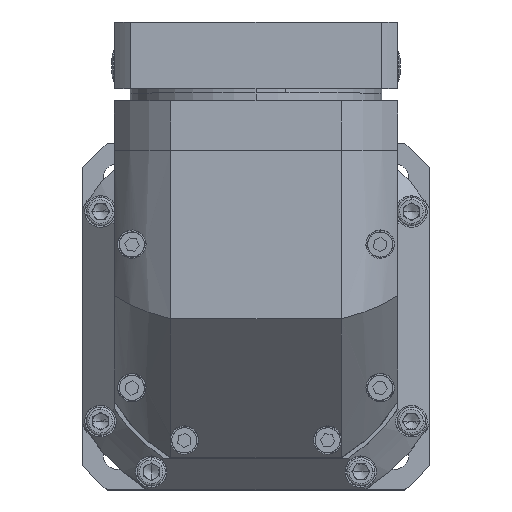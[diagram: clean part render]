
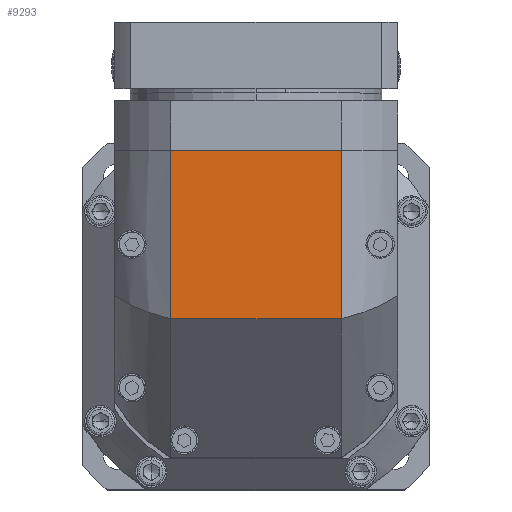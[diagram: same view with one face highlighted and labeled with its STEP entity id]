
A CAD part, top view. The second image highlights one B-rep face of the part: STEP entity #9293.
In plain terms, the highlighted planar face has unit normal (0, 0, 1).
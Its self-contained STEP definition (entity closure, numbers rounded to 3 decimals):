
#520 = CARTESIAN_POINT ( 'NONE',  ( -54.083, -2., 194.5 ) ) ;
#857 = DIRECTION ( 'NONE',  ( 0., 0., -1. ) ) ;
#2604 = EDGE_CURVE ( 'NONE', #10739, #29244, #23088, .T. ) ;
#3960 = DIRECTION ( 'NONE',  ( 1., 0., 0. ) ) ;
#4630 = ORIENTED_EDGE ( 'NONE', *, *, #18927, .T. ) ;
#6908 = VECTOR ( 'NONE', #3960, 1000. ) ;
#7980 = LINE ( 'NONE', #10217, #16503 ) ;
#9223 = CARTESIAN_POINT ( 'NONE',  ( 54.083, 105., 194.5 ) ) ;
#9293 = ADVANCED_FACE ( 'NONE', ( #18364 ), #13960, .F. ) ;
#9609 = CARTESIAN_POINT ( 'NONE',  ( 54.083, -2., 194.5 ) ) ;
#10217 = CARTESIAN_POINT ( 'NONE',  ( -54.083, -90., 194.5 ) ) ;
#10739 = VERTEX_POINT ( 'NONE', #9223 ) ;
#11247 = CARTESIAN_POINT ( 'NONE',  ( 90., -2., 194.5 ) ) ;
#11250 = EDGE_CURVE ( 'NONE', #12813, #29244, #15033, .T. ) ;
#11615 = CARTESIAN_POINT ( 'NONE',  ( 90., 105., 194.5 ) ) ;
#12813 = VERTEX_POINT ( 'NONE', #520 ) ;
#13167 = EDGE_CURVE ( 'NONE', #12813, #25656, #7980, .T. ) ;
#13960 = PLANE ( 'NONE',  #28600 ) ;
#14127 = DIRECTION ( 'NONE',  ( -1., 0., 0. ) ) ;
#14156 = VECTOR ( 'NONE', #14127, 1000. ) ;
#14227 = ORIENTED_EDGE ( 'NONE', *, *, #2604, .F. ) ;
#15033 = LINE ( 'NONE', #11247, #6908 ) ;
#16356 = CARTESIAN_POINT ( 'NONE',  ( 90., 105., 194.5 ) ) ;
#16503 = VECTOR ( 'NONE', #28376, 1000. ) ;
#18364 = FACE_OUTER_BOUND ( 'NONE', #29946, .T. ) ;
#18927 = EDGE_CURVE ( 'NONE', #10739, #25656, #21521, .T. ) ;
#19104 = DIRECTION ( 'NONE',  ( -1., 0., 0. ) ) ;
#20011 = DIRECTION ( 'NONE',  ( 0., -1., 0. ) ) ;
#20983 = ORIENTED_EDGE ( 'NONE', *, *, #11250, .T. ) ;
#21521 = LINE ( 'NONE', #11615, #14156 ) ;
#22413 = CARTESIAN_POINT ( 'NONE',  ( 54.083, -90., 194.5 ) ) ;
#23088 = LINE ( 'NONE', #22413, #24740 ) ;
#24740 = VECTOR ( 'NONE', #20011, 1000. ) ;
#25656 = VERTEX_POINT ( 'NONE', #27132 ) ;
#27132 = CARTESIAN_POINT ( 'NONE',  ( -54.083, 105., 194.5 ) ) ;
#28376 = DIRECTION ( 'NONE',  ( 0., 1., 0. ) ) ;
#28483 = ORIENTED_EDGE ( 'NONE', *, *, #13167, .F. ) ;
#28600 = AXIS2_PLACEMENT_3D ( 'NONE', #16356, #857, #19104 ) ;
#29244 = VERTEX_POINT ( 'NONE', #9609 ) ;
#29946 = EDGE_LOOP ( 'NONE', ( #28483, #20983, #14227, #4630 ) ) ;
